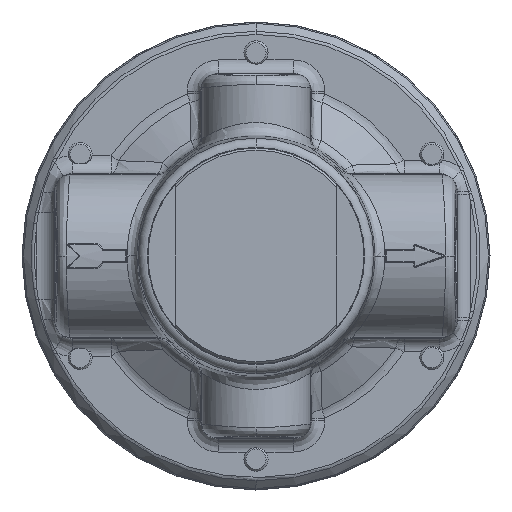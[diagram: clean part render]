
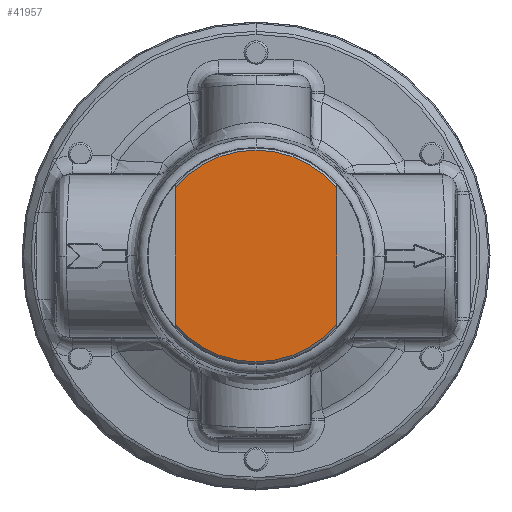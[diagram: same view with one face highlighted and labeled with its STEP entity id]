
A CAD part, front view. The second image highlights one B-rep face of the part: STEP entity #41957.
In plain terms, the highlighted planar face has unit normal (0, -1, 0).
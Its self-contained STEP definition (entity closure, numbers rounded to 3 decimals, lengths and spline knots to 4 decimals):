
#562 = ORIENTED_EDGE ( 'NONE', *, *, #28140, .F. ) ;
#563 = ORIENTED_EDGE ( 'NONE', *, *, #28142, .T. ) ;
#564 = ORIENTED_EDGE ( 'NONE', *, *, #28144, .T. ) ;
#565 = ORIENTED_EDGE ( 'NONE', *, *, #28146, .T. ) ;
#12380 = CARTESIAN_POINT ( 'NONE',  ( -0.5587, -1.906, -0.4737 ) ) ;
#12413 = CARTESIAN_POINT ( 'NONE',  ( -0.5587, -1.906, 0.4737 ) ) ;
#12415 = CARTESIAN_POINT ( 'NONE',  ( 0.5587, -1.906, -0.4737 ) ) ;
#12416 = CARTESIAN_POINT ( 'NONE',  ( 0.5587, -1.906, 0.4737 ) ) ;
#12982 = CARTESIAN_POINT ( 'NONE',  ( -0.5587, -1.906, 0. ) ) ;
#12998 = LINE ( 'NONE', #12982, #13793 ) ;
#13002 = CARTESIAN_POINT ( 'NONE',  ( 0.5587, -1.906, 0. ) ) ;
#13003 = DIRECTION ( 'NONE',  ( 0., 0., 1. ) ) ;
#13004 = LINE ( 'NONE', #13002, #13797 ) ;
#13005 = CARTESIAN_POINT ( 'NONE',  ( 0., -1.906, 0. ) ) ;
#13006 = DIRECTION ( 'NONE',  ( 0., -1., 0. ) ) ;
#13007 = DIRECTION ( 'NONE',  ( 1., 0., 0. ) ) ;
#13008 = DIRECTION ( 'NONE',  ( 0., 0., 1. ) ) ;
#13010 = CARTESIAN_POINT ( 'NONE',  ( 0., -1.906, 0. ) ) ;
#13011 = DIRECTION ( 'NONE',  ( 0., -1., 0. ) ) ;
#13012 = DIRECTION ( 'NONE',  ( 1., 0., 0. ) ) ;
#13793 = VECTOR ( 'NONE', #13003, 39.3701 ) ;
#13795 = CIRCLE ( 'NONE', #13799, 0.7325 ) ;
#13797 = VECTOR ( 'NONE', #13008, 39.3701 ) ;
#13799 = AXIS2_PLACEMENT_3D ( 'NONE', #13005, #13006, #13007 ) ;
#13800 = CIRCLE ( 'NONE', #13802, 0.7325 ) ;
#13802 = AXIS2_PLACEMENT_3D ( 'NONE', #13010, #13011, #13012 ) ;
#26801 = VERTEX_POINT ( 'NONE', #12380 ) ;
#26834 = VERTEX_POINT ( 'NONE', #12413 ) ;
#26836 = VERTEX_POINT ( 'NONE', #12415 ) ;
#26837 = VERTEX_POINT ( 'NONE', #12416 ) ;
#28140 = EDGE_CURVE ( 'NONE', #26801, #26834, #12998, .T. ) ;
#28142 = EDGE_CURVE ( 'NONE', #26801, #26836, #13795, .T. ) ;
#28144 = EDGE_CURVE ( 'NONE', #26836, #26837, #13004, .T. ) ;
#28146 = EDGE_CURVE ( 'NONE', #26837, #26834, #13800, .T. ) ;
#30340 = AXIS2_PLACEMENT_3D ( 'NONE', #32666, #32672, #32673 ) ;
#32666 = CARTESIAN_POINT ( 'NONE',  ( 0., -1.906, 0. ) ) ;
#32668 = FACE_OUTER_BOUND ( 'NONE', #37195, .T. ) ;
#32669 = PLANE ( 'NONE',  #30340 ) ;
#32672 = DIRECTION ( 'NONE',  ( 0., -1., 0. ) ) ;
#32673 = DIRECTION ( 'NONE',  ( 1., 0., 0. ) ) ;
#37195 = EDGE_LOOP ( 'NONE', ( #562, #563, #564, #565 ) ) ;
#41957 = ADVANCED_FACE ( 'NONE', ( #32668 ), #32669, .T. ) ;
